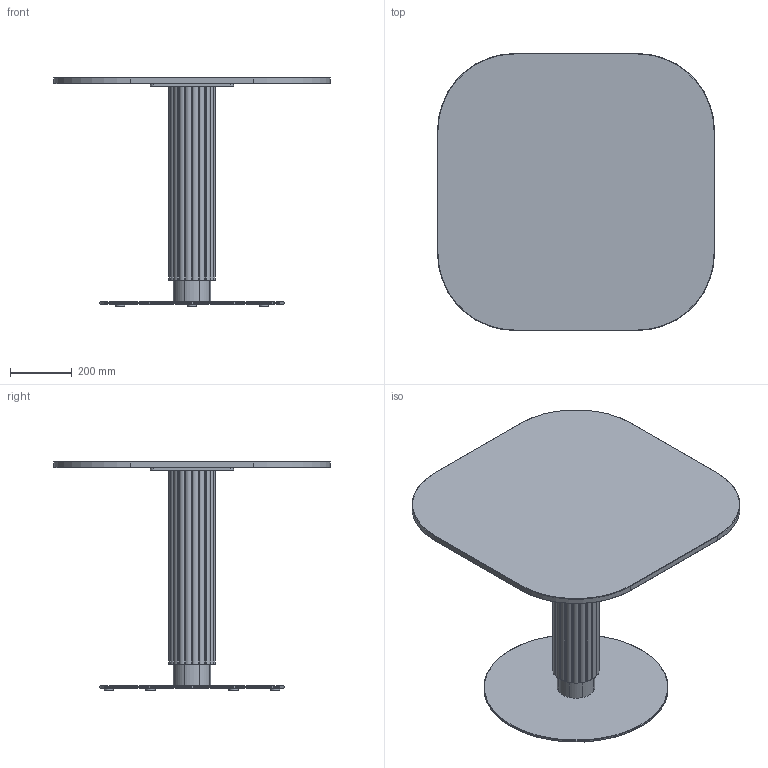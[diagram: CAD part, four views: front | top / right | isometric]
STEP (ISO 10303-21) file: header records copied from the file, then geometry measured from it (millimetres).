
FILE_DESCRIPTION( ('This file contains a STEP AP42 implementation' ,'as created by ZW3D STEP Interface translator.') ,'2;1' );
FILE_NAME( 'Godron - B_Rond - F2 - M1 - 900 x 900 x 750.stp' ,'24 912.115941', (''), ('ZWCAD Software Co.'), 'Version 1.0', 'ZW3D to STEP translator', '' );
FILE_SCHEMA(('AUTOMOTIVE_DESIGN { 1 0 10303 214 1 1 1 1 }'));
Length unit declared in the file: millimetre
Products named in the file (15): 0; PIED BISTROT PARAMETRIQUE_; CROIX ACIER 370 V.02_; CRX-X370-02_; SOCLE ACIER C Ø600 V.02_; SCL-D600-02_; PLA-R30A-01_; PLA-R30A-01; COLONNE ACIER Ø48.5 V.02_; TUB-D048-02_; PLA-R48A-01_; Colonne GODRON H700_; WUERTH 0276063020 Euro-screw 6.3x2 Verzinkt_; PLATEAU BISTROT PARAMETRIQUE_; insert_m6_13_
Assembly tree (25 placements, depth 3):
  0
  PIED BISTROT PARAMETRIQUE_
    CROIX ACIER 370 V.02_
      CRX-X370-02_
    SOCLE ACIER C Ø600 V.02_
      SCL-D600-02_
      PLA-R30A-01_
      PLA-R30A-01  x5
    COLONNE ACIER Ø48.5 V.02_
      TUB-D048-02_
      PLA-R48A-01_  x2
    Colonne GODRON H700_
    WUERTH 0276063020 Euro-screw 6.3x2 Verzinkt_
    PLATEAU BISTROT PARAMETRIQUE_
      insert_m6_13_  x8
Bounding box: 900 x 900 x 744 mm (x, y, z)
Volume: 28448731.4 mm3; surface area: 3570472.3 mm2
Topology: 29 solids, 29 shells, 656 faces, 1625 edges, 1042 vertices
Faces by surface type: plane 294, cylinder 193, bspline 121, cone 47, torus 1
Full cylindrical faces by diameter (mm): 4.88 x1, 6 x8, 6.3 x1, 8 x47, 12 x2, 14 x2, 30 x6, 44.5 x3, 48.5 x1, 600 x1
Entity records: 16234 total; most frequent: CARTESIAN_POINT 4039, DIRECTION 2249, ORIENTED_EDGE 2240, EDGE_CURVE 1120, AXIS2_PLACEMENT_3D 800, VERTEX_POINT 728, VECTOR 649, LINE 649
